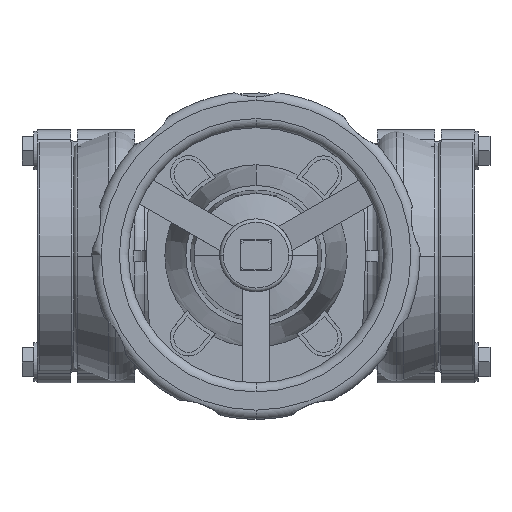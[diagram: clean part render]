
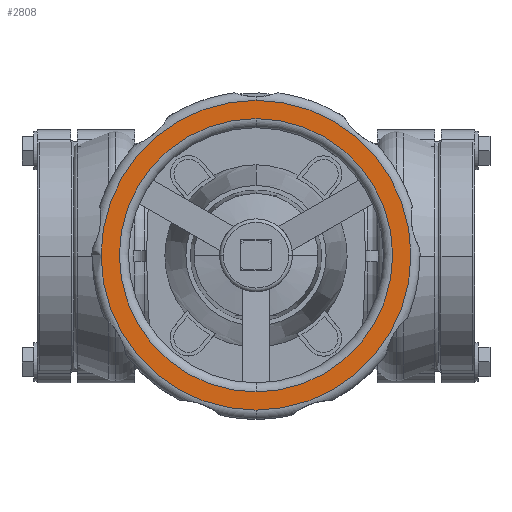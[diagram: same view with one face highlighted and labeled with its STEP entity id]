
A CAD part, top view. The second image highlights one B-rep face of the part: STEP entity #2808.
In plain terms, the highlighted planar face has unit normal (0, 0, 1).
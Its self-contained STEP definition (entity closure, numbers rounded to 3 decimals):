
#2808=ADVANCED_FACE('',(#5277,#5278),#5279,.T.);
#5277=FACE_BOUND('',#8135,.T.);
#5278=FACE_OUTER_BOUND('',#8136,.T.);
#5279=PLANE('',#8137);
#8135=EDGE_LOOP('',(#13471,#13472,#13473));
#8136=EDGE_LOOP('',(#13474,#13475,#13476));
#8137=AXIS2_PLACEMENT_3D('',#13477,#13478,#13479);
#13471=ORIENTED_EDGE('',*,*,#17084,.F.);
#13472=ORIENTED_EDGE('',*,*,#17083,.F.);
#13473=ORIENTED_EDGE('',*,*,#15603,.F.);
#13474=ORIENTED_EDGE('',*,*,#15799,.T.);
#13475=ORIENTED_EDGE('',*,*,#16982,.T.);
#13476=ORIENTED_EDGE('',*,*,#15800,.T.);
#13477=CARTESIAN_POINT('',(115.0,0.,338.0));
#13478=DIRECTION('',(0.,0.,1.0));
#13479=DIRECTION('',(1.0,0.,0.));
#15603=EDGE_CURVE('',#18498,#18494,#18500,.T.);
#15799=EDGE_CURVE('',#18814,#18812,#18815,.T.);
#15800=EDGE_CURVE('',#18798,#18814,#18816,.T.);
#16982=EDGE_CURVE('',#18812,#18798,#20505,.T.);
#17083=EDGE_CURVE('',#18494,#20626,#20627,.T.);
#17084=EDGE_CURVE('',#20626,#18498,#20628,.T.);
#18494=VERTEX_POINT('',#22371);
#18498=VERTEX_POINT('',#22375);
#18500=CIRCLE('',#22377,75.0);
#18798=VERTEX_POINT('',#22794);
#18812=VERTEX_POINT('',#22893);
#18814=VERTEX_POINT('',#22895);
#18815=CIRCLE('',#22896,85.0);
#18816=CIRCLE('',#22897,85.0);
#20505=CIRCLE('',#25204,85.0);
#20626=VERTEX_POINT('',#25385);
#20627=CIRCLE('',#25386,75.0);
#20628=CIRCLE('',#25387,75.0);
#22371=CARTESIAN_POINT('',(35.0,-75.0,338.0));
#22375=CARTESIAN_POINT('',(35.0,75.0,338.0));
#22377=AXIS2_PLACEMENT_3D('',#26782,#26783,#26784);
#22794=CARTESIAN_POINT('',(35.0,-85.0,338.0));
#22893=CARTESIAN_POINT('',(35.0,85.0,338.0));
#22895=CARTESIAN_POINT('',(120.0,0.,338.0));
#22896=AXIS2_PLACEMENT_3D('',#27042,#27043,#27044);
#22897=AXIS2_PLACEMENT_3D('',#27045,#27046,#27047);
#25204=AXIS2_PLACEMENT_3D('',#28598,#28599,#28600);
#25385=CARTESIAN_POINT('',(110.0,0.,338.0));
#25386=AXIS2_PLACEMENT_3D('',#28706,#28707,#28708);
#25387=AXIS2_PLACEMENT_3D('',#28709,#28710,#28711);
#26782=CARTESIAN_POINT('',(35.0,0.,338.0));
#26783=DIRECTION('',(0.,0.,1.0));
#26784=DIRECTION('',(1.0,0.,0.));
#27042=CARTESIAN_POINT('',(35.0,0.,338.0));
#27043=DIRECTION('',(0.,0.,1.0));
#27044=DIRECTION('',(1.0,0.,0.));
#27045=CARTESIAN_POINT('',(35.0,0.,338.0));
#27046=DIRECTION('',(0.,0.,1.0));
#27047=DIRECTION('',(1.0,0.,0.));
#28598=CARTESIAN_POINT('',(35.0,0.,338.0));
#28599=DIRECTION('',(0.,0.,1.0));
#28600=DIRECTION('',(1.0,0.,0.));
#28706=CARTESIAN_POINT('',(35.0,0.,338.0));
#28707=DIRECTION('',(0.,0.,1.0));
#28708=DIRECTION('',(1.0,0.,0.));
#28709=CARTESIAN_POINT('',(35.0,0.,338.0));
#28710=DIRECTION('',(0.,0.,1.0));
#28711=DIRECTION('',(1.0,0.,0.));
